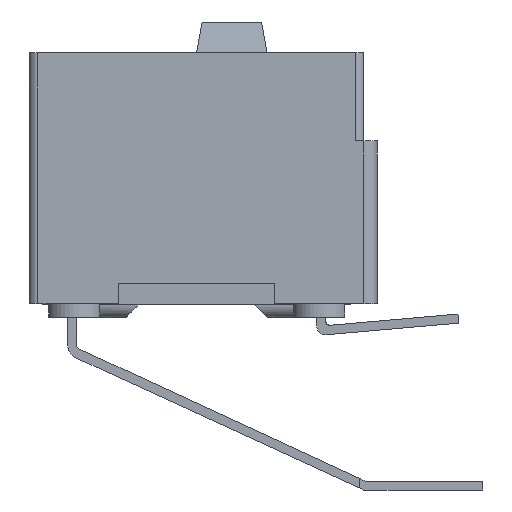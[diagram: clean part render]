
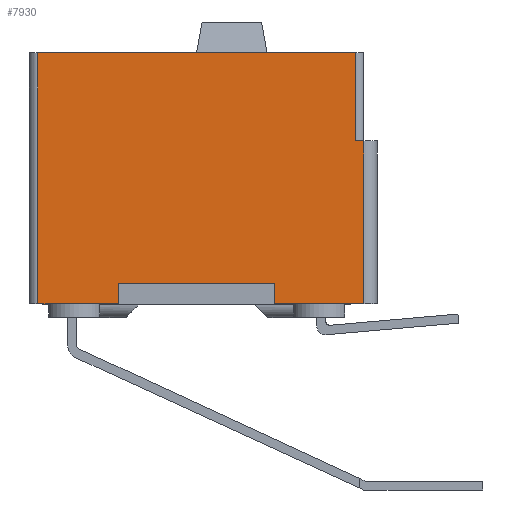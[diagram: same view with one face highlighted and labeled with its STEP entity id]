
A CAD part, left-side view. The second image highlights one B-rep face of the part: STEP entity #7930.
In plain terms, the highlighted planar face has unit normal (-1, 0, 0).
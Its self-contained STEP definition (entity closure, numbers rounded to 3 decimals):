
#449 = PLANE ( 'NONE',  #20805 ) ;
#844 = ORIENTED_EDGE ( 'NONE', *, *, #2934, .F. ) ;
#1052 = CARTESIAN_POINT ( 'NONE',  ( 0., -9.402, -2.54 ) ) ;
#1390 = LINE ( 'NONE', #24007, #29176 ) ;
#1471 = VECTOR ( 'NONE', #11914, 1000. ) ;
#1591 = ORIENTED_EDGE ( 'NONE', *, *, #16595, .F. ) ;
#1682 = EDGE_CURVE ( 'NONE', #18045, #14557, #13404, .T. ) ;
#2580 = LINE ( 'NONE', #27472, #15842 ) ;
#2611 = EDGE_CURVE ( 'NONE', #18506, #14966, #2580, .T. ) ;
#2691 = ORIENTED_EDGE ( 'NONE', *, *, #29177, .T. ) ;
#2934 = EDGE_CURVE ( 'NONE', #18045, #20148, #10155, .T. ) ;
#2971 = CARTESIAN_POINT ( 'NONE',  ( 0., -2.576, -6.639 ) ) ;
#3097 = VERTEX_POINT ( 'NONE', #15977 ) ;
#3140 = ORIENTED_EDGE ( 'NONE', *, *, #6709, .T. ) ;
#3645 = DIRECTION ( 'NONE',  ( -1., 0., 0. ) ) ;
#4091 = CARTESIAN_POINT ( 'NONE',  ( 0., -9.652, -7.239 ) ) ;
#4335 = CARTESIAN_POINT ( 'NONE',  ( 0., -8.357, -7.239 ) ) ;
#4551 = EDGE_LOOP ( 'NONE', ( #17610, #1591, #25919, #25482, #3140, #844, #12085, #2691, #21130, #21891, #10633, #9421 ) ) ;
#4804 = VECTOR ( 'NONE', #21701, 1000. ) ;
#5892 = EDGE_CURVE ( 'NONE', #3097, #21937, #19637, .T. ) ;
#6400 = FACE_OUTER_BOUND ( 'NONE', #4551, .T. ) ;
#6709 = EDGE_CURVE ( 'NONE', #12715, #20148, #11171, .T. ) ;
#7068 = EDGE_CURVE ( 'NONE', #7508, #18707, #24830, .T. ) ;
#7508 = VERTEX_POINT ( 'NONE', #7954 ) ;
#7930 = ADVANCED_FACE ( 'NONE', ( #6400 ), #449, .T. ) ;
#7954 = CARTESIAN_POINT ( 'NONE',  ( 0., -0.25, 0. ) ) ;
#8538 = CARTESIAN_POINT ( 'NONE',  ( 0., -2.576, -7.239 ) ) ;
#8829 = CARTESIAN_POINT ( 'NONE',  ( 0., -0.25, -7.239 ) ) ;
#9421 = ORIENTED_EDGE ( 'NONE', *, *, #11381, .T. ) ;
#9628 = CARTESIAN_POINT ( 'NONE',  ( 0., -0.25, -7.239 ) ) ;
#9688 = DIRECTION ( 'NONE',  ( 0., -1., 0. ) ) ;
#9859 = CARTESIAN_POINT ( 'NONE',  ( 0., -2.576, -6.639 ) ) ;
#10155 = LINE ( 'NONE', #20402, #26778 ) ;
#10455 = DIRECTION ( 'NONE',  ( 0., 1., 0. ) ) ;
#10633 = ORIENTED_EDGE ( 'NONE', *, *, #2611, .T. ) ;
#11171 = LINE ( 'NONE', #13447, #13988 ) ;
#11308 = DIRECTION ( 'NONE',  ( 0., 0., 1. ) ) ;
#11381 = EDGE_CURVE ( 'NONE', #14966, #21937, #27359, .T. ) ;
#11674 = CARTESIAN_POINT ( 'NONE',  ( 0., -7.076, -6.639 ) ) ;
#11914 = DIRECTION ( 'NONE',  ( 0., -1., 0. ) ) ;
#12085 = ORIENTED_EDGE ( 'NONE', *, *, #1682, .T. ) ;
#12220 = DIRECTION ( 'NONE',  ( 0., -1., 0. ) ) ;
#12543 = CARTESIAN_POINT ( 'NONE',  ( 0., -0.25, -7.239 ) ) ;
#12715 = VERTEX_POINT ( 'NONE', #4335 ) ;
#13404 = LINE ( 'NONE', #1052, #13731 ) ;
#13447 = CARTESIAN_POINT ( 'NONE',  ( 0., -0.25, -7.239 ) ) ;
#13681 = CARTESIAN_POINT ( 'NONE',  ( 0., -1.295, -7.239 ) ) ;
#13731 = VECTOR ( 'NONE', #21071, 1000. ) ;
#13761 = CARTESIAN_POINT ( 'NONE',  ( 0., -9.652, -2.54 ) ) ;
#13886 = DIRECTION ( 'NONE',  ( 0., -1., 0. ) ) ;
#13988 = VECTOR ( 'NONE', #16210, 1000. ) ;
#14557 = VERTEX_POINT ( 'NONE', #18349 ) ;
#14794 = DIRECTION ( 'NONE',  ( 0., -1., 0. ) ) ;
#14966 = VERTEX_POINT ( 'NONE', #13681 ) ;
#14967 = VERTEX_POINT ( 'NONE', #24096 ) ;
#15471 = CARTESIAN_POINT ( 'NONE',  ( 0., -9.402, 0. ) ) ;
#15842 = VECTOR ( 'NONE', #14794, 1000. ) ;
#15977 = CARTESIAN_POINT ( 'NONE',  ( 0., -2.576, -6.639 ) ) ;
#16210 = DIRECTION ( 'NONE',  ( 0., -1., 0. ) ) ;
#16595 = EDGE_CURVE ( 'NONE', #14967, #3097, #22996, .T. ) ;
#17030 = DIRECTION ( 'NONE',  ( 0., 0., -1. ) ) ;
#17474 = DIRECTION ( 'NONE',  ( 0., 0., -1. ) ) ;
#17610 = ORIENTED_EDGE ( 'NONE', *, *, #5892, .F. ) ;
#17862 = CARTESIAN_POINT ( 'NONE',  ( 0., -0.25, -7.239 ) ) ;
#18045 = VERTEX_POINT ( 'NONE', #13761 ) ;
#18349 = CARTESIAN_POINT ( 'NONE',  ( 0., -9.402, -2.54 ) ) ;
#18506 = VERTEX_POINT ( 'NONE', #9628 ) ;
#18707 = VERTEX_POINT ( 'NONE', #15471 ) ;
#19499 = EDGE_CURVE ( 'NONE', #23133, #12715, #21224, .T. ) ;
#19587 = CARTESIAN_POINT ( 'NONE',  ( 0., -9.402, -7.239 ) ) ;
#19637 = LINE ( 'NONE', #9859, #29188 ) ;
#20132 = CARTESIAN_POINT ( 'NONE',  ( 0., -0.25, 0. ) ) ;
#20148 = VERTEX_POINT ( 'NONE', #4091 ) ;
#20213 = VECTOR ( 'NONE', #12220, 1000. ) ;
#20402 = CARTESIAN_POINT ( 'NONE',  ( 0., -9.652, -2.54 ) ) ;
#20805 = AXIS2_PLACEMENT_3D ( 'NONE', #17862, #3645, #13886 ) ;
#21071 = DIRECTION ( 'NONE',  ( 0., 1., 0. ) ) ;
#21130 = ORIENTED_EDGE ( 'NONE', *, *, #7068, .F. ) ;
#21224 = LINE ( 'NONE', #8829, #1471 ) ;
#21701 = DIRECTION ( 'NONE',  ( 0., 0., 1. ) ) ;
#21891 = ORIENTED_EDGE ( 'NONE', *, *, #23047, .F. ) ;
#21937 = VERTEX_POINT ( 'NONE', #8538 ) ;
#22235 = DIRECTION ( 'NONE',  ( 0., 0., -1. ) ) ;
#22996 = LINE ( 'NONE', #2971, #29947 ) ;
#23047 = EDGE_CURVE ( 'NONE', #18506, #7508, #1390, .T. ) ;
#23133 = VERTEX_POINT ( 'NONE', #25124 ) ;
#24007 = CARTESIAN_POINT ( 'NONE',  ( 0., -0.25, -7.239 ) ) ;
#24096 = CARTESIAN_POINT ( 'NONE',  ( 0., -7.076, -6.639 ) ) ;
#24830 = LINE ( 'NONE', #20132, #30069 ) ;
#25124 = CARTESIAN_POINT ( 'NONE',  ( 0., -7.076, -7.239 ) ) ;
#25482 = ORIENTED_EDGE ( 'NONE', *, *, #19499, .T. ) ;
#25919 = ORIENTED_EDGE ( 'NONE', *, *, #32025, .T. ) ;
#26104 = VECTOR ( 'NONE', #17030, 1000. ) ;
#26778 = VECTOR ( 'NONE', #17474, 1000. ) ;
#27359 = LINE ( 'NONE', #12543, #20213 ) ;
#27472 = CARTESIAN_POINT ( 'NONE',  ( 0., -0.25, -7.239 ) ) ;
#28919 = LINE ( 'NONE', #11674, #26104 ) ;
#29176 = VECTOR ( 'NONE', #11308, 1000. ) ;
#29177 = EDGE_CURVE ( 'NONE', #14557, #18707, #29318, .T. ) ;
#29188 = VECTOR ( 'NONE', #22235, 1000. ) ;
#29318 = LINE ( 'NONE', #19587, #4804 ) ;
#29947 = VECTOR ( 'NONE', #10455, 1000. ) ;
#30069 = VECTOR ( 'NONE', #9688, 1000. ) ;
#32025 = EDGE_CURVE ( 'NONE', #14967, #23133, #28919, .T. ) ;
